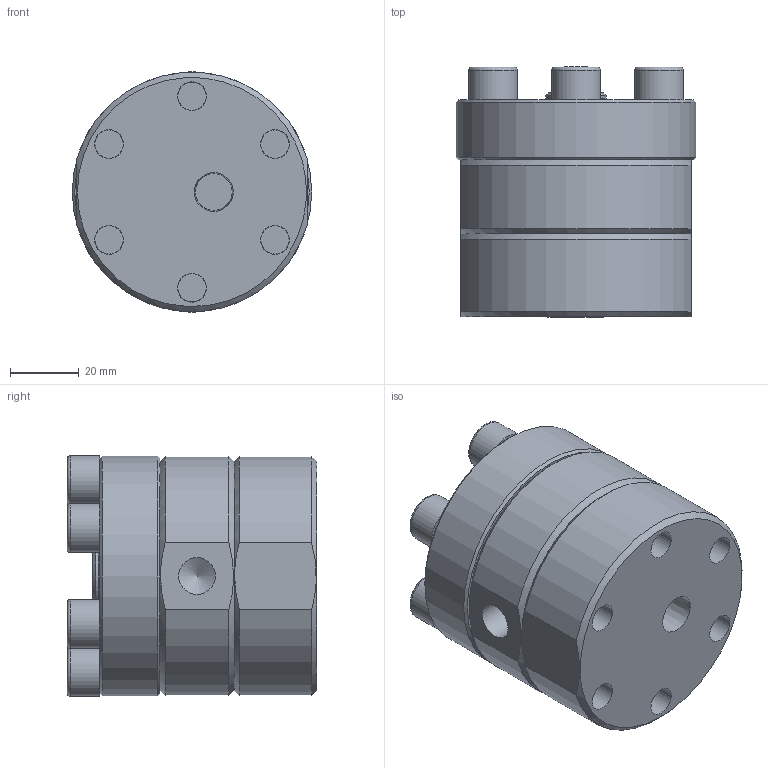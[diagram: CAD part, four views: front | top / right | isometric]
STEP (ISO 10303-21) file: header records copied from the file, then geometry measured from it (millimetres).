
FILE_DESCRIPTION(/* description */ (''),/* implementation_level */ '2;1');
FILE_NAME(/* name */ 'Z:\Models\Instrument Series\BR1\B6R-2X External Assembly.stp',/* time_stamp */ '2018-01-30T13:38:52-05:00',/* author */ ('Owner'),/* organization */ (''),/* preprocessor_version */ 'ST-DEVELOPER v15.6',/* originating_system */ 'Autodesk Inventor 2015',/* authorisation */ '');
FILE_SCHEMA (('CONFIG_CONTROL_DESIGN'));
Length unit declared in the file: inch
Products named in the file (5): B6R-2x External; H6P RC; B6R-2X LM; ANSI B18.3 - 3_8-24 UNF - 2.25(31); B6R-3E External Assembly
Assembly tree (9 placements, depth 2):
  B6R-3E External Assembly
    B6R-2x External
    H6P RC
    B6R-2X LM
    ANSI B18.3 - 3_8-24 UNF - 2.25(31)  x6
Bounding box: 69.85 x 72.77 x 70.14 mm (x, y, z)
Volume: 226230.2 mm3; surface area: 63927 mm2
Topology: 9 solids, 9 shells, 193 faces, 443 edges, 282 vertices
Faces by surface type: plane 82, cylinder 53, torus 28, cone 26, bspline 4
Full cylindrical faces by diameter (mm): 0.762 x1, 8.382 x6, 8.611 x1, 9.525 x6, 9.804 x12, 10.716 x1, 14.275 x6, 17.78 x1, 31.318 x1, 36.373 x1, 37.592 x2, 41.123 x2, 69.85 x1
Entity records: 3397 total; most frequent: CARTESIAN_POINT 765, DIRECTION 572, ORIENTED_EDGE 404, AXIS2_PLACEMENT_3D 262, EDGE_LOOP 222, EDGE_CURVE 202, VERTEX_POINT 156, CIRCLE 134
